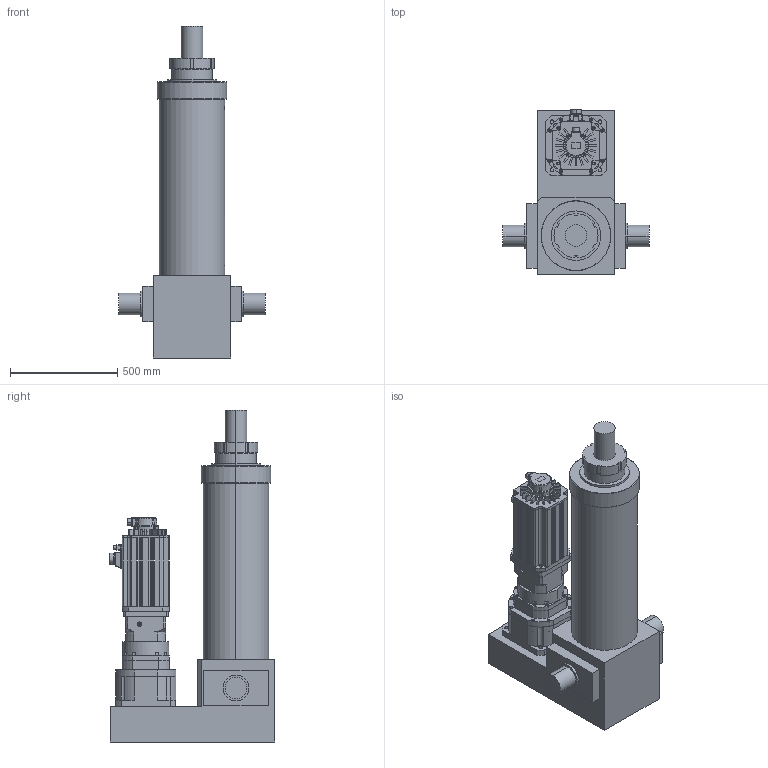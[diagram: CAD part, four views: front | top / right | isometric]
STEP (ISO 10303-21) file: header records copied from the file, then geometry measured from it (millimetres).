
FILE_DESCRIPTION (( 'STEP AP203' ), '1' );
FILE_NAME ('S12殏殿嫉粣假蚾.STEP', '2024-08-16T07:03:45', ( '' ), ( '' ), 'SwSTEP 2.0', 'SolidWorks 2018', '' );
FILE_SCHEMA (( 'CONFIG_CONTROL_DESIGN' ));
Length unit declared in the file: millimetre
Products named in the file (4): S12殏殿嫉粣; PLX280-L3 42-200-235-M12; S12殏殿嫉粣假蚾; ECMA-F1221BS3-220框號系列機種-11KW高慣量系列
Assembly tree (3 placements, depth 2):
  S12殏殿嫉粣假蚾
    S12殏殿嫉粣
    PLX280-L3 42-200-235-M12
    ECMA-F1221BS3-220框號系列機種-11KW高慣量系列
Bounding box: 680 x 769.2 x 1545 mm (x, y, z)
Volume: 172528958.7 mm3; surface area: 4141879.2 mm2
Topology: 7 solids, 13 shells, 1194 faces, 3098 edges, 1995 vertices
Faces by surface type: cylinder 514, plane 508, cone 133, bspline 18, torus 13, sphere 8
Entity records: 39707 total; most frequent: CARTESIAN_POINT 9895, DIRECTION 6266, ORIENTED_EDGE 5828, EDGE_CURVE 3056, AXIS2_PLACEMENT_3D 2351, VERTEX_POINT 1995, VECTOR 1564, LINE 1564
